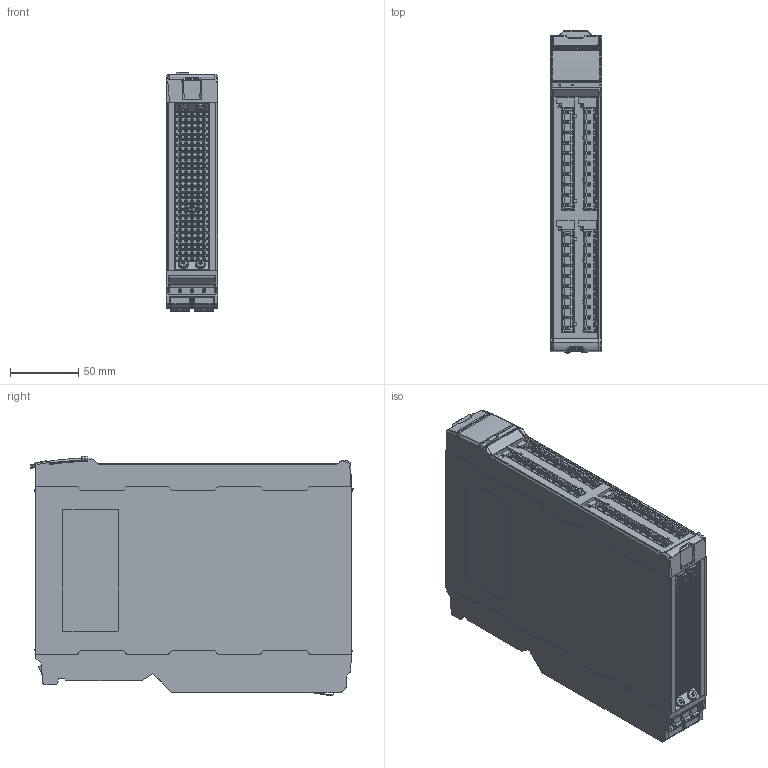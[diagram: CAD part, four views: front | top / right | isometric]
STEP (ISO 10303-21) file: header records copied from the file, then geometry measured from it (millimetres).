
FILE_DESCRIPTION (( 'STEP AP214' ), '1' );
FILE_NAME ('HX1120_20140114.STEP', '2014-01-14T18:56:52', ( 'ALTUS' ), ( '' ), 'SwSTEP 2.0', 'SolidWorks 2011', '' );
FILE_SCHEMA (( 'AUTOMOTIVE_DESIGN' ));
Length unit declared in the file: millimetre
Products named in the file (1): HX1120_20140114
Bounding box: 38.02 x 236.48 x 175.61 mm (x, y, z)
Volume: 1356494.6 mm3; surface area: 181251.9 mm2
Topology: 3 solids, 29 shells, 5714 faces, 15663 edges, 10030 vertices
Faces by surface type: plane 3421, cylinder 1589, bspline 367, sphere 161, cone 132, torus 44
Entity records: 247502 total; most frequent: CARTESIAN_POINT 48597, ORIENTED_EDGE 31170, DIRECTION 24979, EDGE_CURVE 15585, LINE 10819, VECTOR 10819, VERTEX_POINT 10022, AXIS2_PLACEMENT_3D 7080
